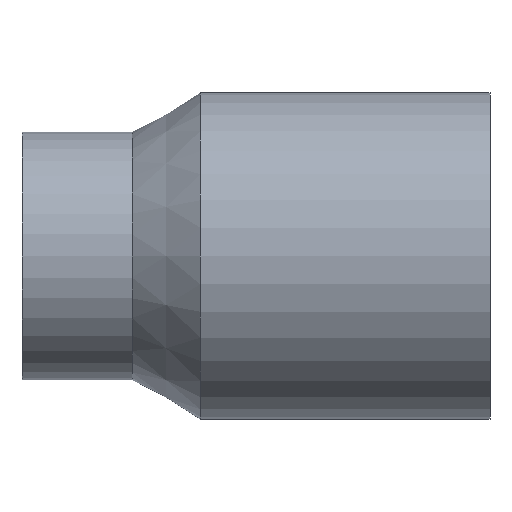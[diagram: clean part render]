
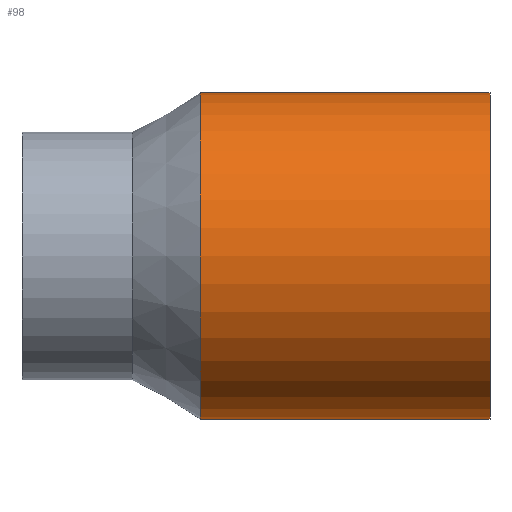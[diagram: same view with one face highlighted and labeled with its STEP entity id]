
A CAD part, front view. The second image highlights one B-rep face of the part: STEP entity #98.
In plain terms, the highlighted cylindrical face has radius 59.3 mm (diameter 118.6 mm), a full revolution.
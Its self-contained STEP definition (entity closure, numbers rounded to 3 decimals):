
#17=CYLINDRICAL_SURFACE($,#115,59.3);
#24=FACE_BOUND($,#46,.T.);
#33=FACE_OUTER_BOUND($,#45,.T.);
#45=EDGE_LOOP($,(#85));
#46=EDGE_LOOP($,(#86));
#56=CIRCLE($,#114,59.3);
#57=CIRCLE($,#116,59.3);
#64=VERTEX_POINT($,#170);
#65=VERTEX_POINT($,#173);
#72=EDGE_CURVE($,#64,#64,#56,.T.);
#73=EDGE_CURVE($,#65,#65,#57,.T.);
#85=ORIENTED_EDGE($,*,*,#73,.F.);
#86=ORIENTED_EDGE($,*,*,#72,.T.);
#98=ADVANCED_FACE($,(#33,#24),#17,.T.);
#114=AXIS2_PLACEMENT_3D($,#171,#142,#143);
#115=AXIS2_PLACEMENT_3D($,#172,#144,#145);
#116=AXIS2_PLACEMENT_3D($,#174,#146,#147);
#142=DIRECTION('center_axis',(1.,0.,0.));
#143=DIRECTION('ref_axis',(0.,1.,0.));
#144=DIRECTION('center_axis',(1.,0.,0.));
#145=DIRECTION('ref_axis',(0.,1.,0.));
#146=DIRECTION('center_axis',(1.,0.,0.));
#147=DIRECTION('ref_axis',(0.,1.,0.));
#170=CARTESIAN_POINT('',(64.768,59.3,0.));
#171=CARTESIAN_POINT('Origin',(64.768,0.,0.));
#172=CARTESIAN_POINT('Origin',(117.384,0.,0.));
#173=CARTESIAN_POINT('',(170.,59.3,0.));
#174=CARTESIAN_POINT('Origin',(170.,0.,0.));
